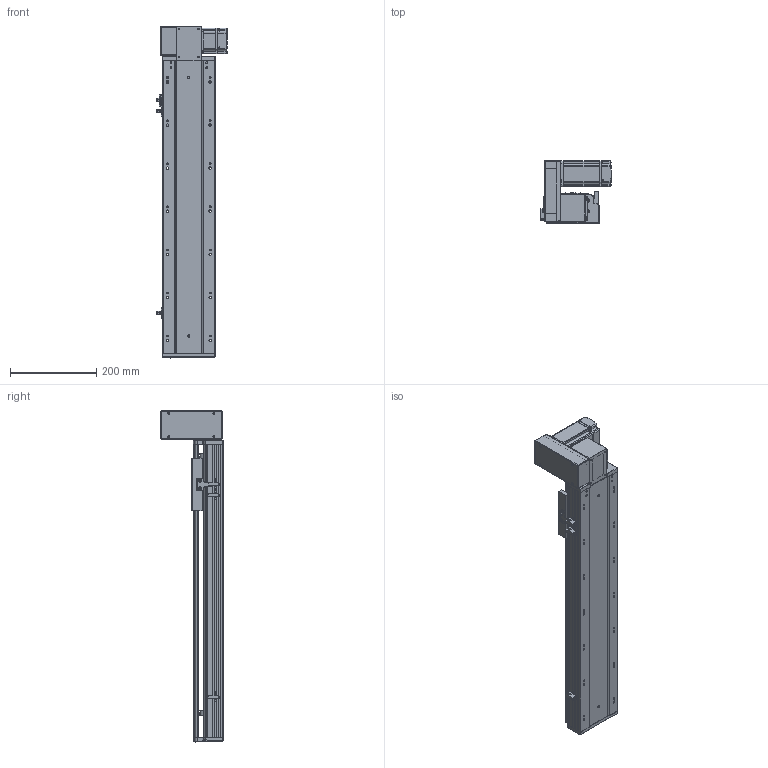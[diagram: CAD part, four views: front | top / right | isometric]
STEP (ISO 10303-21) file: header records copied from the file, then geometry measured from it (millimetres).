
FILE_DESCRIPTION (( 'STEP AP203' ), '1' );
FILE_NAME ('RY120-T-300-UL.SLDASM_450.step', '2021-03-01T05:35:17', ( '盈信电脑' ), ( '东莞市道滘镇水果街19号' ), 'SwSTEP 2.0', 'SolidWorks 2012', '' );
FILE_SCHEMA (( 'CONFIG_CONTROL_DESIGN' ));
Products named in the file (18): RY120-T翋肮祭謫裔啣; RY120-T-300-UL.SLDASM_450; RY120-T蹟翐M4; 侂狟400W侜督萇儂; RY120-T主同步轮轴承压盖; 滅袉蝶18-10; RY120-T萇儂欶; RY120-T肮祭湍揤踡輸2; RY120-T翋肮祭盓傅釱; 15; RY120-T萇儂假蚾啣; RY120-T肮祭湍揤踡輸1; RY120綴裔啣; RY120外置感应片(140共用）; 覜茼ん672; RY120-T-300-UL倰第奻裔啣_450; RY120肮祭湍臏賑輸; RY120-T-300-UL倰第菁釱_450
Assembly tree (23 placements, depth 3):
  RY120-T-300-UL.SLDASM_450
    RY120-T-300-UL倰第菁釱_450
    RY120-T-300-UL倰第奻裔啣_450
    RY120肮祭湍臏賑輸
    RY120綴裔啣
    覜茼ん672  x3
    RY120外置感应片(140共用）
    RY120-T肮祭湍揤踡輸1
    RY120-T肮祭湍揤踡輸2
    RY120-T翋肮祭盓傅釱
    RY120-T萇儂假蚾啣
    侂狟400W侜督萇儂
      15
    RY120-T主同步轮轴承压盖
    滅袉蝶18-10  x2
    RY120-T萇儂欶
    RY120-T蹟翐M4  x4
    RY120-T翋肮祭謫裔啣
Bounding box: 164.2 x 146 x 771 mm (x, y, z)
Volume: 2409601.6 mm3; surface area: 874244 mm2
Topology: 23 solids, 23 shells, 2752 faces, 7512 edges, 4838 vertices
Faces by surface type: plane 1416, cylinder 1030, cone 217, bspline 89
Entity records: 87882 total; most frequent: CARTESIAN_POINT 22382, ORIENTED_EDGE 13512, DIRECTION 12730, EDGE_CURVE 6756, VERTEX_POINT 4425, VECTOR 4248, LINE 4248, AXIS2_PLACEMENT_3D 4241
